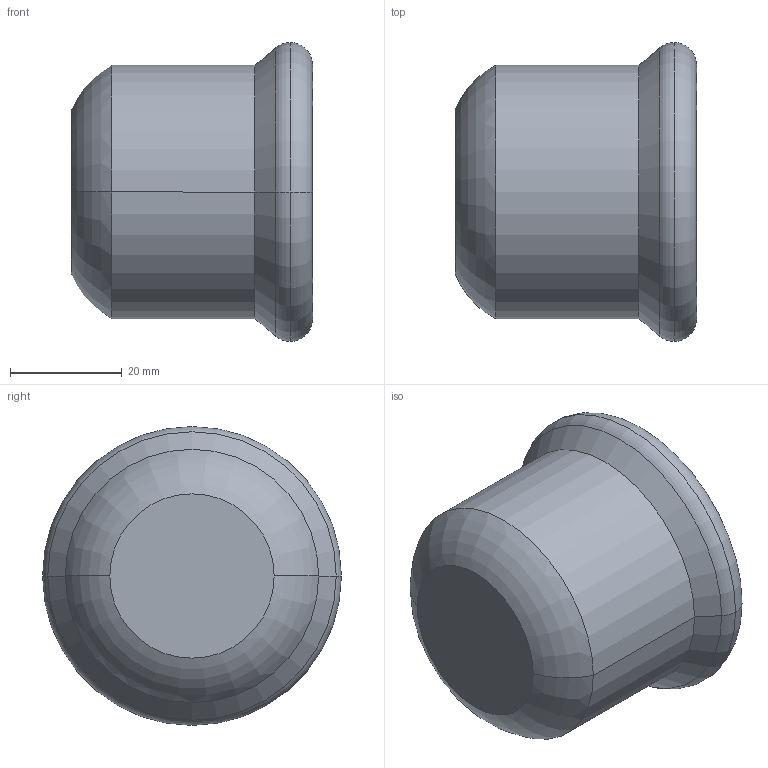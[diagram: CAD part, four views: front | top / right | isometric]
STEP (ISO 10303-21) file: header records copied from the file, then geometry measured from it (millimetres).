
FILE_DESCRIPTION(('CoCreate Modeling STEP Export'),'2;1');
FILE_NAME('C1429 42.stp','2014-11-12T16:10:40',(''),(''),'CoCreate Modeling STEP processor for AP214 (Solid Model)','CoCreate Modeling 17.00A 17-Jun-2010 (C) Parametric Technology GmbH','');
FILE_SCHEMA(('AUTOMOTIVE_DESIGN { 1 0 10303 214 1 1 1 1 }'));
Length unit declared in the file: millimetre
Products named in the file (2): C1429_42
Assembly tree (1 placements, depth 2):
  C1429_42
    C1429_42
Bounding box: 43.2 x 53.55 x 53.55 mm (x, y, z)
Volume: 24258.7 mm3; surface area: 14134.2 mm2
Topology: 1 solids, 1 shells, 21 faces, 42 edges, 26 vertices
Faces by surface type: cylinder 8, torus 6, plane 5, cone 2
Entity records: 490 total; most frequent: ORIENTED_EDGE 84, DIRECTION 74, CARTESIAN_POINT 68, EDGE_CURVE 42, AXIS2_PLACEMENT_3D 32, VERTEX_POINT 26, EDGE_LOOP 24, FACE_OUTER_BOUND 21
